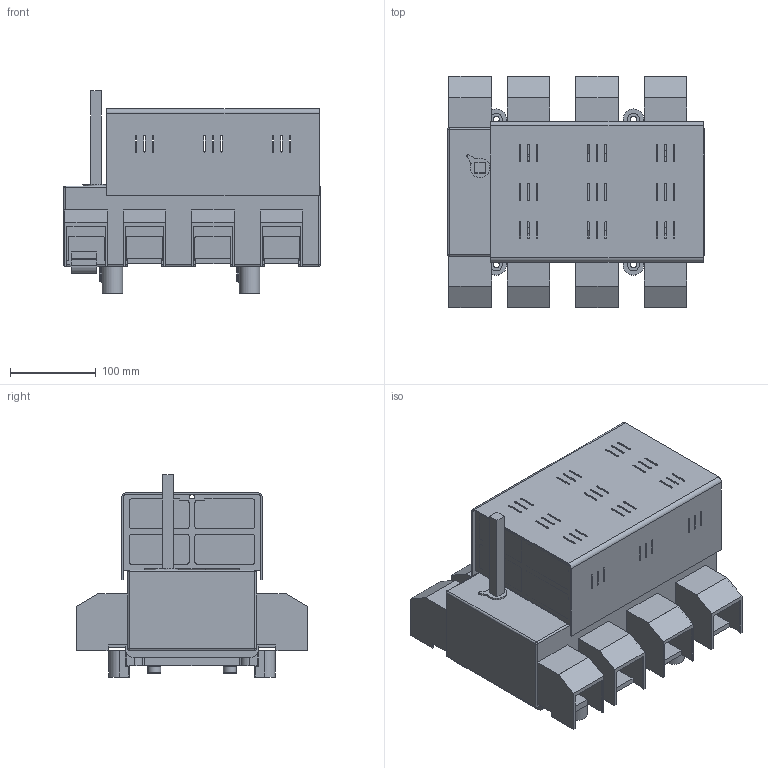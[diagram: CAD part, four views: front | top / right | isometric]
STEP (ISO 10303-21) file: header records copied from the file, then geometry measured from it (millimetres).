
FILE_DESCRIPTION(/* description */ (''),/* implementation_level */ '2;1');
FILE_NAME(/* name */ 'RAB 3 P3 N z oslona zaciskow.stp',/* time_stamp */ '2021-08-19T14:40:31+02:00',/* author */ (''),/* organization */ (''),/* preprocessor_version */ 'ST-DEVELOPER v18.1',/* originating_system */ 'SIEMENS PLM Software NX 1965',/* authorisation */ '');
FILE_SCHEMA (('AUTOMOTIVE_DESIGN { 1 0 10303 214 3 1 1 1 }'));
Length unit declared in the file: millimetre
Products named in the file (1): RAB 3 P3 N z oslona zaciskow_stp
Bounding box: 300 x 270 x 236 mm (x, y, z)
Volume: 4670286.7 mm3; surface area: 814261.1 mm2
Topology: 1 solids, 15 shells, 1774 faces, 4839 edges, 3115 vertices
Faces by surface type: plane 1098, cylinder 566, bspline 50, torus 44, cone 8, sphere 8
Full cylindrical faces by diameter (mm): 3 x4, 4.8 x4, 5.2 x2, 5.6 x4, 6.5 x26, 7 x4, 10.5 x26, 13 x8, 13.5 x4, 14 x4, 15 x4
Entity records: 57731 total; most frequent: CARTESIAN_POINT 12623, ORIENTED_EDGE 9368, DIRECTION 9250, EDGE_CURVE 4684, LINE 3328, VECTOR 3328, VERTEX_POINT 3086, AXIS2_PLACEMENT_3D 2961
